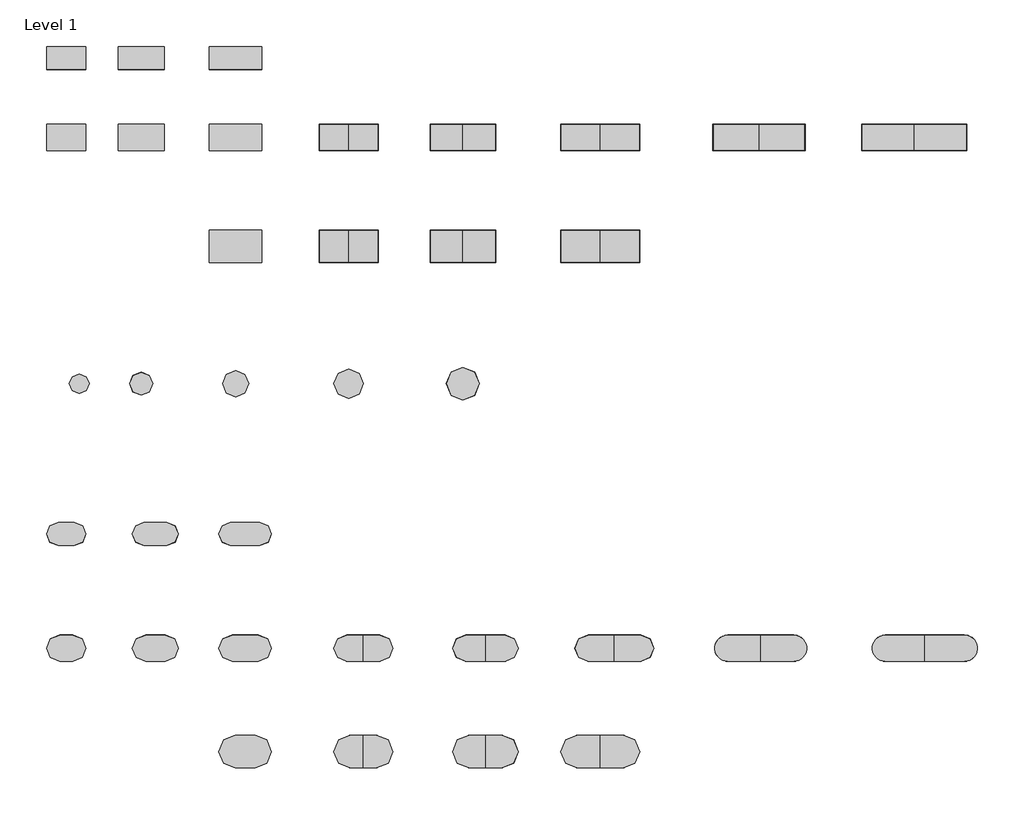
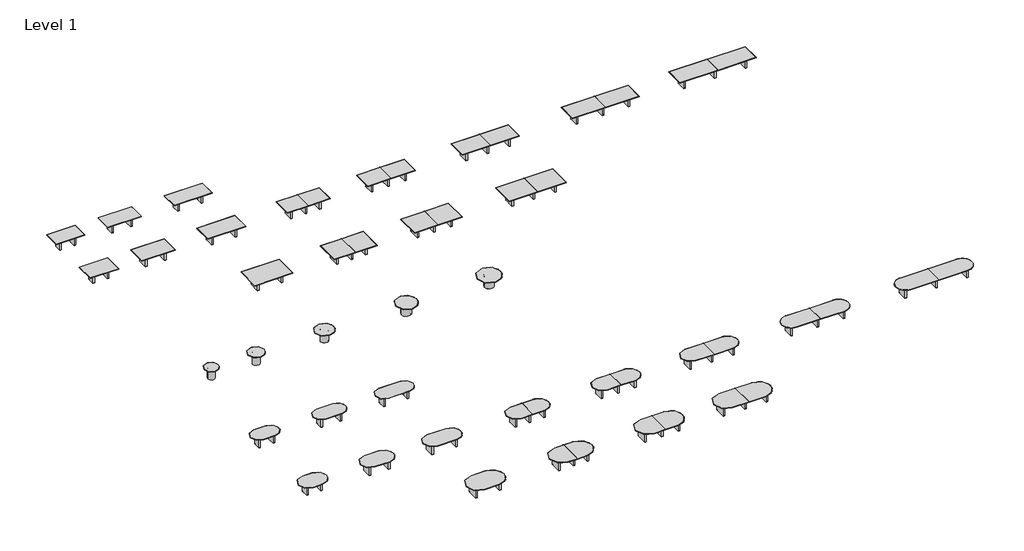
# One storey: 35 furniture elements.
"""IFC4 building model written with IfcOpenShell, lengths in millimetres."""

from ifc_helpers import new_model, si_unit, origin, place, context, project, spatial, transform, mapped, element, save
from components import be36d_b31a16cc, be4272_b93f4ad8, be4272rt_8010a66e, be4284_8c53abd4, be4284rt_ff4269db, be4296_17755770, be4296rt_6f28001f, be42d_83e980be, be48108_1ee79d1c, be48108rt_c4bf1557, be48120_0febc19b, be48120rt_d17ae28c, be48144_10aec17a, be48144rt_097eed4c, be48168_c655a8c3, be48168rt_bf54c20b, be48192_92fb3286, be48192rt_52dd922f, be4872_4a25be52, be4872rt_7615bdcb, be4884_85807473, be4884rt_efc67c6b, be4896_64fea685, be4896rt_288dafa8, be48d_4231b625, be54d_984520a6, be60108_65b3de9a, be60108rt_faf3e787, be60120_ca61224d, be60120rt_78b47af5, be60144_a57a1f3c, be60144rt_28809bae, be6096_d5abcd09, be6096rt_4beb3adf, be60d_203a4da1

model = new_model("IFC4")

# Units and contexts
model_context = context("Model", 3, world=origin())
ifc_project = project(units=[si_unit("LENGTHUNIT", "METRE", prefix="MILLI")], contexts=[model_context])

# Site, building, storey
site = spatial("IfcSite", under=ifc_project)
building = spatial("IfcBuilding", under=site)
storey = spatial("IfcBuildingStorey", under=building, Name="Level 1", Elevation=0.0)

# Furniture
placement = place(None, origin())
be36d_shape = be36d_b31a16cc(model_context)
element("IfcFurniture", 1, ObjectType="ERG-Beta-Conference_Table-Round : BE36D", at=placement, inside=storey, context=model_context, shape_type="MappedRepresentation", body=[
    mapped(be36d_shape, transform((-15564.9179666, -1665.713143, 0.0), x_axis=(1.0, 0.0, 0.0), y_axis=(0.0, 1.0, 0.0), z_axis=(0.0, 0.0, 1.0))),
])
be4272_shape = be4272_b93f4ad8(model_context)
element("IfcFurniture", 2, ObjectType="ERG-Beta-Conference_Table-Rectangle : BE4272", at=placement, inside=storey, context=model_context, shape_type="MappedRepresentation", body=[
    mapped(be4272_shape, transform((-16168.8570956, 13448.0539948, 0.0), x_axis=(1.0, 0.0, 0.0), y_axis=(0.0, 1.0, 0.0), z_axis=(0.0, 0.0, 1.0))),
])
be4272rt_shape = be4272rt_8010a66e(model_context)
element("IfcFurniture", 3, ObjectType="ERG-Beta-Conference_Table-Racetrack : BE4272RT", at=placement, inside=storey, context=model_context, shape_type="MappedRepresentation", body=[
    mapped(be4272rt_shape, transform((-16168.8570956, -8641.3400071, 0.0), x_axis=(1.0, 0.0, 0.0), y_axis=(0.0, 1.0, 0.0), z_axis=(0.0, 0.0, 1.0))),
])
be4284_shape = be4284_8c53abd4(model_context)
element("IfcFurniture", 4, ObjectType="ERG-Beta-Conference_Table-Rectangle : BE4284", at=placement, inside=storey, context=model_context, shape_type="MappedRepresentation", body=[
    mapped(be4284_shape, transform((-12697.6580424, 13448.0539948, 0.0), x_axis=(1.0, 0.0, 0.0), y_axis=(0.0, 1.0, 0.0), z_axis=(0.0, 0.0, 1.0))),
])
be4284rt_shape = be4284rt_ff4269db(model_context)
element("IfcFurniture", 5, ObjectType="ERG-Beta-Conference_Table-Racetrack : BE4284RT", at=placement, inside=storey, context=model_context, shape_type="MappedRepresentation", body=[
    mapped(be4284rt_shape, transform((-12034.9653224, -8641.3400071, 0.0), x_axis=(1.0, 0.0, 0.0), y_axis=(0.0, 1.0, 0.0), z_axis=(0.0, 0.0, 1.0))),
])
be4296_shape = be4296_17755770(model_context)
element("IfcFurniture", 6, ObjectType="ERG-Beta-Conference_Table-Rectangle : BE4296", at=placement, inside=storey, context=model_context, shape_type="MappedRepresentation", body=[
    mapped(be4296_shape, transform((-8313.5104916, 13448.0539948, 0.0), x_axis=(1.0, 0.0, 0.0), y_axis=(0.0, 1.0, 0.0), z_axis=(0.0, 0.0, 1.0))),
])
be4296rt_shape = be4296rt_6f28001f(model_context)
element("IfcFurniture", 7, ObjectType="ERG-Beta-Conference_Table-Racetrack : BE4296RT", at=placement, inside=storey, context=model_context, shape_type="MappedRepresentation", body=[
    mapped(be4296rt_shape, transform((-7872.7476349, -8641.3400071, 0.0), x_axis=(1.0, 0.0, 0.0), y_axis=(0.0, 1.0, 0.0), z_axis=(0.0, 0.0, 1.0))),
])
be42d_shape = be42d_83e980be(model_context)
element("IfcFurniture", 8, ObjectType="ERG-Beta-Conference_Table-Round : BE42D", at=placement, inside=storey, context=model_context, shape_type="MappedRepresentation", body=[
    mapped(be42d_shape, transform((-12697.6580424, -1665.713143, 0.0), x_axis=(1.0, 0.0, 0.0), y_axis=(0.0, 1.0, 0.0), z_axis=(0.0, 0.0, 1.0))),
])
be48108_shape = be48108_1ee79d1c(model_context)
element("IfcFurniture", 9, ObjectType="ERG-Beta-Conference_Table-Rectangle : BE48108", at=placement, inside=storey, context=model_context, shape_type="MappedRepresentation", body=[
    mapped(be48108_shape, transform((-3074.7593165, 9761.8411917, 0.0), x_axis=(1.0, 0.0, 0.0), y_axis=(0.0, 1.0, 0.0), z_axis=(0.0, 0.0, 1.0))),
])
be48108rt_shape = be48108rt_c4bf1557(model_context)
element("IfcFurniture", 10, ObjectType="ERG-Beta-Conference_Table-Racetrack : BE48108RT", at=placement, inside=storey, context=model_context, shape_type="MappedRepresentation", body=[
    mapped(be48108rt_shape, transform((-2393.3724513, -13937.4106395, 0.0), x_axis=(1.0, 0.0, 0.0), y_axis=(0.0, 1.0, 0.0), z_axis=(0.0, 0.0, 1.0))),
])
be48120_shape = be48120_0febc19b(model_context)
element("IfcFurniture", 11, ObjectType="ERG-Beta-Conference_Table-Rectangle : BE48120", at=placement, inside=storey, context=model_context, shape_type="MappedRepresentation", body=[
    mapped(be48120_shape, transform((2223.7494767, 9761.8411917, 0.0), x_axis=(1.0, 0.0, 0.0), y_axis=(0.0, 1.0, 0.0), z_axis=(0.0, 0.0, 1.0))),
])
be48120rt_shape = be48120rt_d17ae28c(model_context)
element("IfcFurniture", 12, ObjectType="ERG-Beta-Conference_Table-Racetrack : BE48120RT", at=placement, inside=storey, context=model_context, shape_type="MappedRepresentation", body=[
    mapped(be48120rt_shape, transform((3270.4047816, -13937.4106395, 0.0), x_axis=(1.0, 0.0, 0.0), y_axis=(0.0, 1.0, 0.0), z_axis=(0.0, 0.0, 1.0))),
])
be48144_shape = be48144_10aec17a(model_context)
element("IfcFurniture", 13, ObjectType="ERG-Beta-Conference_Table-Rectangle : BE48144", at=placement, inside=storey, context=model_context, shape_type="MappedRepresentation", body=[
    mapped(be48144_shape, transform((8597.7957972, 9761.8411917, 0.0), x_axis=(1.0, 0.0, 0.0), y_axis=(0.0, 1.0, 0.0), z_axis=(0.0, 0.0, 1.0))),
])
be48144rt_shape = be48144rt_097eed4c(model_context)
element("IfcFurniture", 14, ObjectType="ERG-Beta-Conference_Table-Racetrack : BE48144RT", at=placement, inside=storey, context=model_context, shape_type="MappedRepresentation", body=[
    mapped(be48144rt_shape, transform((9250.2998137, -13937.4106395, 0.0), x_axis=(1.0, 0.0, 0.0), y_axis=(0.0, 1.0, 0.0), z_axis=(0.0, 0.0, 1.0))),
])
be48168_shape = be48168_c655a8c3(model_context)
element("IfcFurniture", 15, ObjectType="ERG-Beta-Conference_Table-Rectangle : BE48168", at=placement, inside=storey, context=model_context, shape_type="MappedRepresentation", body=[
    mapped(be48168_shape, transform((15954.4706172, 9761.8411917, 0.0), x_axis=(1.0, 0.0, 0.0), y_axis=(0.0, 1.0, 0.0), z_axis=(0.0, 0.0, 1.0))),
])
be48168rt_shape = be48168rt_bf54c20b(model_context)
element("IfcFurniture", 16, ObjectType="ERG-Beta-Conference_Table-Racetrack : BE48168RT", at=placement, inside=storey, context=model_context, shape_type="MappedRepresentation", body=[
    mapped(be48168rt_shape, transform((16033.9671574, -13937.4106395, 0.0), x_axis=(1.0, 0.0, 0.0), y_axis=(0.0, 1.0, 0.0), z_axis=(0.0, 0.0, 1.0))),
])
be48192_shape = be48192_92fb3286(model_context)
element("IfcFurniture", 17, ObjectType="ERG-Beta-Conference_Table-Rectangle : BE48192", at=placement, inside=storey, context=model_context, shape_type="MappedRepresentation", body=[
    mapped(be48192_shape, transform((23146.1505456, 9761.8411917, 0.0), x_axis=(1.0, 0.0, 0.0), y_axis=(0.0, 1.0, 0.0), z_axis=(0.0, 0.0, 1.0))),
])
be48192rt_shape = be48192rt_52dd922f(model_context)
element("IfcFurniture", 18, ObjectType="ERG-Beta-Conference_Table-Racetrack : BE48192RT", at=placement, inside=storey, context=model_context, shape_type="MappedRepresentation", body=[
    mapped(be48192rt_shape, transform((23646.2484032, -13937.4106395, 0.0), x_axis=(1.0, 0.0, 0.0), y_axis=(0.0, 1.0, 0.0), z_axis=(0.0, 0.0, 1.0))),
])
be4872_shape = be4872_4a25be52(model_context)
element("IfcFurniture", 19, ObjectType="ERG-Beta-Conference_Table-Rectangle : BE4872", at=placement, inside=storey, context=model_context, shape_type="MappedRepresentation", body=[
    mapped(be4872_shape, transform((-16168.8570956, 9761.8411917, 0.0), x_axis=(1.0, 0.0, 0.0), y_axis=(0.0, 1.0, 0.0), z_axis=(0.0, 0.0, 1.0))),
])
be4872rt_shape = be4872rt_7615bdcb(model_context)
element("IfcFurniture", 20, ObjectType="ERG-Beta-Conference_Table-Racetrack : BE4872RT", at=placement, inside=storey, context=model_context, shape_type="MappedRepresentation", body=[
    mapped(be4872rt_shape, transform((-16168.8570956, -13937.4106395, 0.0), x_axis=(1.0, 0.0, 0.0), y_axis=(0.0, 1.0, 0.0), z_axis=(0.0, 0.0, 1.0))),
])
be4884_shape = be4884_85807473(model_context)
element("IfcFurniture", 21, ObjectType="ERG-Beta-Conference_Table-Rectangle : BE4884", at=placement, inside=storey, context=model_context, shape_type="MappedRepresentation", body=[
    mapped(be4884_shape, transform((-12697.6580424, 9761.8411917, 0.0), x_axis=(1.0, 0.0, 0.0), y_axis=(0.0, 1.0, 0.0), z_axis=(0.0, 0.0, 1.0))),
])
be4884rt_shape = be4884rt_efc67c6b(model_context)
element("IfcFurniture", 22, ObjectType="ERG-Beta-Conference_Table-Racetrack : BE4884RT", at=placement, inside=storey, context=model_context, shape_type="MappedRepresentation", body=[
    mapped(be4884rt_shape, transform((-12034.9653224, -13937.4106395, 0.0), x_axis=(1.0, 0.0, 0.0), y_axis=(0.0, 1.0, 0.0), z_axis=(0.0, 0.0, 1.0))),
])
be4896_shape = be4896_64fea685(model_context)
element("IfcFurniture", 23, ObjectType="ERG-Beta-Conference_Table-Rectangle : BE4896", at=placement, inside=storey, context=model_context, shape_type="MappedRepresentation", body=[
    mapped(be4896_shape, transform((-8313.5104916, 9761.8411917, 0.0), x_axis=(1.0, 0.0, 0.0), y_axis=(0.0, 1.0, 0.0), z_axis=(0.0, 0.0, 1.0))),
])
be4896rt_shape = be4896rt_288dafa8(model_context)
element("IfcFurniture", 24, ObjectType="ERG-Beta-Conference_Table-Racetrack : BE4896RT", at=placement, inside=storey, context=model_context, shape_type="MappedRepresentation", body=[
    mapped(be4896rt_shape, transform((-7872.7476349, -13937.4106395, 0.0), x_axis=(1.0, 0.0, 0.0), y_axis=(0.0, 1.0, 0.0), z_axis=(0.0, 0.0, 1.0))),
])
be48d_shape = be48d_4231b625(model_context)
element("IfcFurniture", 25, ObjectType="ERG-Beta-Conference_Table-Round : BE48D", at=placement, inside=storey, context=model_context, shape_type="MappedRepresentation", body=[
    mapped(be48d_shape, transform((-8313.5104916, -1665.713143, 0.0), x_axis=(1.0, 0.0, 0.0), y_axis=(0.0, 1.0, 0.0), z_axis=(0.0, 0.0, 1.0))),
])
be54d_shape = be54d_984520a6(model_context)
element("IfcFurniture", 26, ObjectType="ERG-Beta-Conference_Table-Round : BE54D", at=placement, inside=storey, context=model_context, shape_type="MappedRepresentation", body=[
    mapped(be54d_shape, transform((-3074.7593165, -1665.713143, 0.0), x_axis=(1.0, 0.0, 0.0), y_axis=(0.0, 1.0, 0.0), z_axis=(0.0, 0.0, 1.0))),
])
be60108_shape = be60108_65b3de9a(model_context)
element("IfcFurniture", 27, ObjectType="ERG-Beta-Conference_Table-Rectangle : BE60108", at=placement, inside=storey, context=model_context, shape_type="MappedRepresentation", body=[
    mapped(be60108_shape, transform((-3074.7593165, 4711.2049729, 0.0), x_axis=(1.0, 0.0, 0.0), y_axis=(0.0, 1.0, 0.0), z_axis=(0.0, 0.0, 1.0))),
])
be60108rt_shape = be60108rt_faf3e787(model_context)
element("IfcFurniture", 28, ObjectType="ERG-Beta-Conference_Table-Racetrack : BE60108RT", at=placement, inside=storey, context=model_context, shape_type="MappedRepresentation", body=[
    mapped(be60108rt_shape, transform((-2393.3724513, -18733.7013598, 0.0), x_axis=(1.0, 0.0, 0.0), y_axis=(0.0, 1.0, 0.0), z_axis=(0.0, 0.0, 1.0))),
])
be60120_shape = be60120_ca61224d(model_context)
element("IfcFurniture", 29, ObjectType="ERG-Beta-Conference_Table-Rectangle : BE60120", at=placement, inside=storey, context=model_context, shape_type="MappedRepresentation", body=[
    mapped(be60120_shape, transform((2223.7494767, 4711.2049729, 0.0), x_axis=(1.0, 0.0, 0.0), y_axis=(0.0, 1.0, 0.0), z_axis=(0.0, 0.0, 1.0))),
])
be60120rt_shape = be60120rt_78b47af5(model_context)
element("IfcFurniture", 30, ObjectType="ERG-Beta-Conference_Table-Racetrack : BE60120RT", at=placement, inside=storey, context=model_context, shape_type="MappedRepresentation", body=[
    mapped(be60120rt_shape, transform((3270.4047816, -18733.7013598, 0.0), x_axis=(1.0, 0.0, 0.0), y_axis=(0.0, 1.0, 0.0), z_axis=(0.0, 0.0, 1.0))),
])
be60144_shape = be60144_a57a1f3c(model_context)
element("IfcFurniture", 31, ObjectType="ERG-Beta-Conference_Table-Rectangle : BE60144", at=placement, inside=storey, context=model_context, shape_type="MappedRepresentation", body=[
    mapped(be60144_shape, transform((8597.7957972, 4711.2049729, 0.0), x_axis=(1.0, 0.0, 0.0), y_axis=(0.0, 1.0, 0.0), z_axis=(0.0, 0.0, 1.0))),
])
be60144rt_shape = be60144rt_28809bae(model_context)
element("IfcFurniture", 32, ObjectType="ERG-Beta-Conference_Table-Racetrack : BE60144RT", at=placement, inside=storey, context=model_context, shape_type="MappedRepresentation", body=[
    mapped(be60144rt_shape, transform((8597.7957972, -18733.7013598, 0.0), x_axis=(1.0, 0.0, 0.0), y_axis=(0.0, 1.0, 0.0), z_axis=(0.0, 0.0, 1.0))),
])
be6096_shape = be6096_d5abcd09(model_context)
element("IfcFurniture", 33, ObjectType="ERG-Beta-Conference_Table-Rectangle : BE6096", at=placement, inside=storey, context=model_context, shape_type="MappedRepresentation", body=[
    mapped(be6096_shape, transform((-8313.5104916, 4711.2049729, 0.0), x_axis=(1.0, 0.0, 0.0), y_axis=(0.0, 1.0, 0.0), z_axis=(0.0, 0.0, 1.0))),
])
be6096rt_shape = be6096rt_4beb3adf(model_context)
element("IfcFurniture", 34, ObjectType="ERG-Beta-Conference_Table-Racetrack : BE6096RT", at=placement, inside=storey, context=model_context, shape_type="MappedRepresentation", body=[
    mapped(be6096rt_shape, transform((-7872.7476349, -18733.7013598, 0.0), x_axis=(1.0, 0.0, 0.0), y_axis=(0.0, 1.0, 0.0), z_axis=(0.0, 0.0, 1.0))),
])
be60d_shape = be60d_203a4da1(model_context)
element("IfcFurniture", 35, ObjectType="ERG-Beta-Conference_Table-Round : BE60D", at=placement, inside=storey, context=model_context, shape_type="MappedRepresentation", body=[
    mapped(be60d_shape, transform((2223.7494767, -1665.713143, 0.0), x_axis=(1.0, 0.0, 0.0), y_axis=(0.0, 1.0, 0.0), z_axis=(0.0, 0.0, 1.0))),
])

save(model, "model.ifc")
